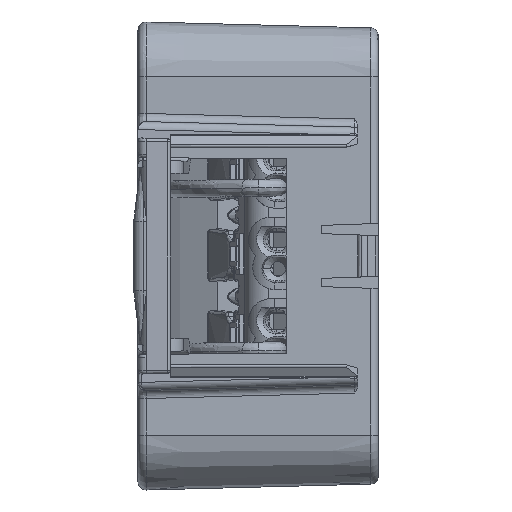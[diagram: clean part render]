
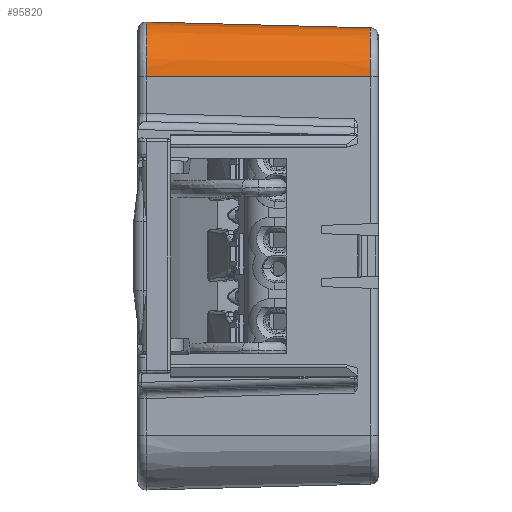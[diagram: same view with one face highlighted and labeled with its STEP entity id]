
A CAD part, left-side view. The second image highlights one B-rep face of the part: STEP entity #95820.
In plain terms, the highlighted conical face has half-angle 1.5 degrees and reference radius 6 mm.
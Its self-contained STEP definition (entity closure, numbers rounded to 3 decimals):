
#2597 = CARTESIAN_POINT ( 'NONE',  ( -21.981, 0.026, 0.974 ) ) ;
#11718 = CIRCLE ( 'NONE', #82976, 6.746 ) ;
#21730 = ORIENTED_EDGE ( 'NONE', *, *, #172103, .T. ) ;
#22931 = CARTESIAN_POINT ( 'NONE',  ( -21.981, 0., 0. ) ) ;
#23063 = CONICAL_SURFACE ( 'NONE', #48712, 6., 0.026 ) ;
#29142 = DIRECTION ( 'NONE',  ( 1., 0., 0. ) ) ;
#36791 = CARTESIAN_POINT ( 'NONE',  ( -28.726, -6., 28.474 ) ) ;
#37464 = CIRCLE ( 'NONE', #77361, 6.026 ) ;
#44208 = EDGE_CURVE ( 'NONE', #98301, #91626, #75339, .T. ) ;
#45047 = DIRECTION ( 'NONE',  ( -0.026, 0., 1. ) ) ;
#48712 = AXIS2_PLACEMENT_3D ( 'NONE', #78089, #107527, #106643 ) ;
#57728 = VECTOR ( 'NONE', #45047, 1000. ) ;
#59675 = ORIENTED_EDGE ( 'NONE', *, *, #96288, .T. ) ;
#60425 = VERTEX_POINT ( 'NONE', #84367 ) ;
#75339 = LINE ( 'NONE', #126292, #57728 ) ;
#77361 = AXIS2_PLACEMENT_3D ( 'NONE', #107309, #118083, #120721 ) ;
#78089 = CARTESIAN_POINT ( 'NONE',  ( -21.981, -6., 0. ) ) ;
#82976 = AXIS2_PLACEMENT_3D ( 'NONE', #164846, #139794, #29142 ) ;
#84367 = CARTESIAN_POINT ( 'NONE',  ( -21.981, 0.746, 28.474 ) ) ;
#90817 = VECTOR ( 'NONE', #131858, 1000. ) ;
#91626 = VERTEX_POINT ( 'NONE', #36791 ) ;
#95560 = EDGE_CURVE ( 'NONE', #91626, #60425, #11718, .T. ) ;
#95820 = ADVANCED_FACE ( 'NONE', ( #136079 ), #23063, .T. ) ;
#96288 = EDGE_CURVE ( 'NONE', #120248, #98301, #37464, .T. ) ;
#98301 = VERTEX_POINT ( 'NONE', #169630 ) ;
#106643 = DIRECTION ( 'NONE',  ( -1., 0., 0. ) ) ;
#107309 = CARTESIAN_POINT ( 'NONE',  ( -21.981, -6., 0.974 ) ) ;
#107527 = DIRECTION ( 'NONE',  ( 0., 0., 1. ) ) ;
#113680 = EDGE_LOOP ( 'NONE', ( #59675, #118411, #137491, #21730 ) ) ;
#118083 = DIRECTION ( 'NONE',  ( 0., 0., 1. ) ) ;
#118411 = ORIENTED_EDGE ( 'NONE', *, *, #44208, .T. ) ;
#120248 = VERTEX_POINT ( 'NONE', #2597 ) ;
#120721 = DIRECTION ( 'NONE',  ( -1., 0., 0. ) ) ;
#126292 = CARTESIAN_POINT ( 'NONE',  ( -27.981, -6., 0. ) ) ;
#131858 = DIRECTION ( 'NONE',  ( 0., -0.026, -1. ) ) ;
#136079 = FACE_OUTER_BOUND ( 'NONE', #113680, .T. ) ;
#137491 = ORIENTED_EDGE ( 'NONE', *, *, #95560, .T. ) ;
#139794 = DIRECTION ( 'NONE',  ( 0., 0., -1. ) ) ;
#145227 = LINE ( 'NONE', #22931, #90817 ) ;
#164846 = CARTESIAN_POINT ( 'NONE',  ( -21.981, -6., 28.474 ) ) ;
#169630 = CARTESIAN_POINT ( 'NONE',  ( -28.006, -6., 0.974 ) ) ;
#172103 = EDGE_CURVE ( 'NONE', #60425, #120248, #145227, .T. ) ;
